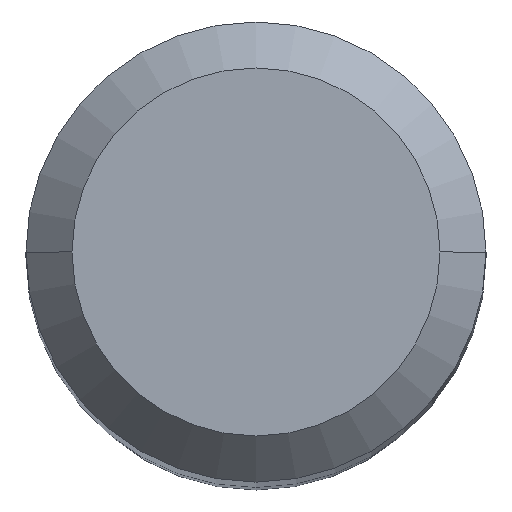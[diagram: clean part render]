
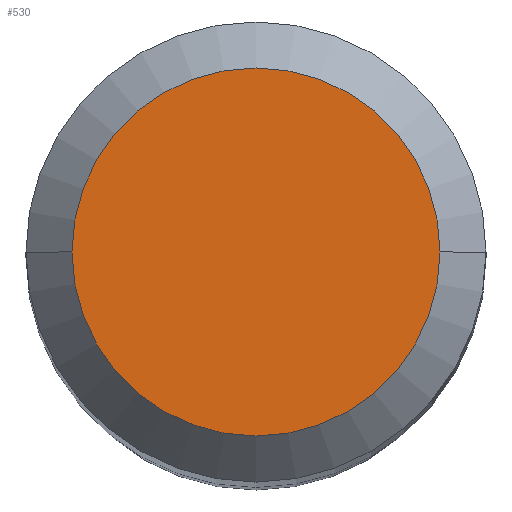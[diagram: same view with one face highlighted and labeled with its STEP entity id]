
A CAD part, top view. The second image highlights one B-rep face of the part: STEP entity #530.
In plain terms, the highlighted planar face has unit normal (0, 0, 1).
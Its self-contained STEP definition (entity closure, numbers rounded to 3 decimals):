
#5 = AXIS2_PLACEMENT_3D ( 'NONE', #20, #252, #286 ) ;
#6 = CARTESIAN_POINT ( 'NONE',  ( 2.4, 0., 0. ) ) ;
#18 = EDGE_CURVE ( 'NONE', #497, #548, #544, .T. ) ;
#20 = CARTESIAN_POINT ( 'NONE',  ( 0., 0., 0. ) ) ;
#30 = ORIENTED_EDGE ( 'NONE', *, *, #84, .F. ) ;
#37 = AXIS2_PLACEMENT_3D ( 'NONE', #336, #514, #124 ) ;
#41 = ORIENTED_EDGE ( 'NONE', *, *, #18, .F. ) ;
#84 = EDGE_CURVE ( 'NONE', #548, #497, #398, .T. ) ;
#124 = DIRECTION ( 'NONE',  ( -1., 0., 0. ) ) ;
#136 = CARTESIAN_POINT ( 'NONE',  ( -2.4, 0., 0. ) ) ;
#148 = EDGE_LOOP ( 'NONE', ( #41, #30 ) ) ;
#179 = PLANE ( 'NONE',  #219 ) ;
#219 = AXIS2_PLACEMENT_3D ( 'NONE', #271, #445, #358 ) ;
#252 = DIRECTION ( 'NONE',  ( 0., 0., -1. ) ) ;
#271 = CARTESIAN_POINT ( 'NONE',  ( 0., 2.4, 0. ) ) ;
#286 = DIRECTION ( 'NONE',  ( -1., 0., 0. ) ) ;
#336 = CARTESIAN_POINT ( 'NONE',  ( 0., 0., 0. ) ) ;
#358 = DIRECTION ( 'NONE',  ( 1., 0., 0. ) ) ;
#394 = FACE_OUTER_BOUND ( 'NONE', #148, .T. ) ;
#398 = CIRCLE ( 'NONE', #5, 2.4 ) ;
#445 = DIRECTION ( 'NONE',  ( 0., 0., 1. ) ) ;
#497 = VERTEX_POINT ( 'NONE', #136 ) ;
#514 = DIRECTION ( 'NONE',  ( 0., 0., -1. ) ) ;
#530 = ADVANCED_FACE ( 'NONE', ( #394 ), #179, .T. ) ;
#544 = CIRCLE ( 'NONE', #37, 2.4 ) ;
#548 = VERTEX_POINT ( 'NONE', #6 ) ;
